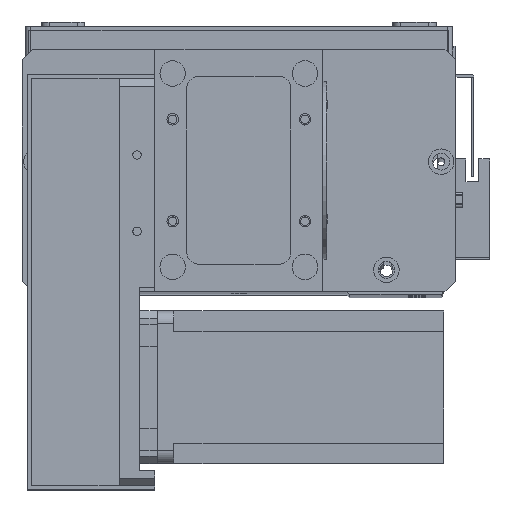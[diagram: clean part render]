
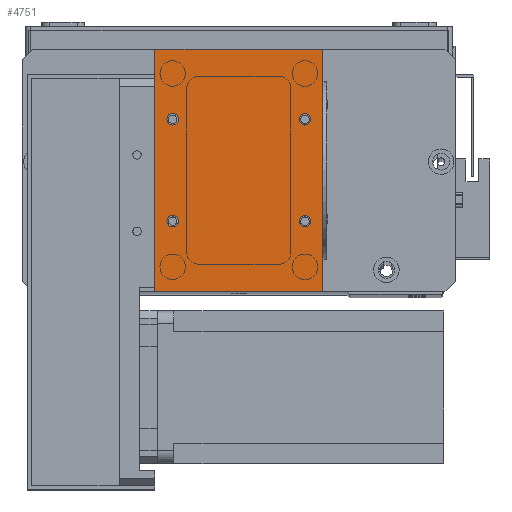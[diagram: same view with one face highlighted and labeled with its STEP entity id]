
A CAD part, top view. The second image highlights one B-rep face of the part: STEP entity #4751.
In plain terms, the highlighted planar face has unit normal (0, 0, 1).
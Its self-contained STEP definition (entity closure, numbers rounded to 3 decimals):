
#208 = DIRECTION ( 'NONE',  ( 1., 0., 0. ) ) ;
#307 = AXIS2_PLACEMENT_3D ( 'NONE', #27571, #25006, #30450 ) ;
#1178 = FACE_OUTER_BOUND ( 'NONE', #15034, .T. ) ;
#1947 = CARTESIAN_POINT ( 'NONE',  ( 0., 0., 2. ) ) ;
#2480 = CIRCLE ( 'NONE', #7157, 2.25 ) ;
#2496 = AXIS2_PLACEMENT_3D ( 'NONE', #18423, #3894, #20866 ) ;
#3235 = LINE ( 'NONE', #24770, #16170 ) ;
#3435 = CARTESIAN_POINT ( 'NONE',  ( 66., 0., 2. ) ) ;
#3616 = CARTESIAN_POINT ( 'NONE',  ( 0., 0., 2. ) ) ;
#3668 = ORIENTED_EDGE ( 'NONE', *, *, #30009, .F. ) ;
#3894 = DIRECTION ( 'NONE',  ( 0., 0., 1. ) ) ;
#4319 = ORIENTED_EDGE ( 'NONE', *, *, #9087, .T. ) ;
#4488 = VECTOR ( 'NONE', #29881, 1000. ) ;
#4751 = ADVANCED_FACE ( 'NONE', ( #20556, #26994, #7603, #14075, #1178 ), #10550, .F. ) ;
#4860 = CARTESIAN_POINT ( 'NONE',  ( 0., 95., 2. ) ) ;
#5053 = VERTEX_POINT ( 'NONE', #9591 ) ;
#5247 = CIRCLE ( 'NONE', #28431, 2.25 ) ;
#6034 = CARTESIAN_POINT ( 'NONE',  ( 7., 27.5, 2. ) ) ;
#6365 = EDGE_LOOP ( 'NONE', ( #25556, #28090 ) ) ;
#6397 = VERTEX_POINT ( 'NONE', #25258 ) ;
#6584 = VERTEX_POINT ( 'NONE', #25360 ) ;
#7157 = AXIS2_PLACEMENT_3D ( 'NONE', #6034, #23034, #8462 ) ;
#7603 = FACE_BOUND ( 'NONE', #12398, .T. ) ;
#7767 = DIRECTION ( 'NONE',  ( -1., 0., 0. ) ) ;
#8462 = DIRECTION ( 'NONE',  ( 1., 0., 0. ) ) ;
#8807 = CARTESIAN_POINT ( 'NONE',  ( 4.75, 27.5, 2. ) ) ;
#8946 = DIRECTION ( 'NONE',  ( 0., 0., 1. ) ) ;
#9087 = EDGE_CURVE ( 'NONE', #13125, #20215, #3235, .T. ) ;
#9422 = ORIENTED_EDGE ( 'NONE', *, *, #21863, .T. ) ;
#9591 = CARTESIAN_POINT ( 'NONE',  ( 56.75, 27.5, 2. ) ) ;
#10213 = DIRECTION ( 'NONE',  ( 0., 0., 1. ) ) ;
#10258 = DIRECTION ( 'NONE',  ( 0., 0., 1. ) ) ;
#10345 = CARTESIAN_POINT ( 'NONE',  ( 7., 67.5, 2. ) ) ;
#10399 = LINE ( 'NONE', #28283, #22580 ) ;
#10550 = PLANE ( 'NONE',  #307 ) ;
#10574 = ORIENTED_EDGE ( 'NONE', *, *, #26641, .F. ) ;
#11349 = CIRCLE ( 'NONE', #19455, 2.25 ) ;
#11885 = CARTESIAN_POINT ( 'NONE',  ( 59., 67.5, 2. ) ) ;
#11947 = CIRCLE ( 'NONE', #2496, 2.25 ) ;
#12398 = EDGE_LOOP ( 'NONE', ( #21739, #19826 ) ) ;
#12780 = DIRECTION ( 'NONE',  ( 1., 0., 0. ) ) ;
#13125 = VERTEX_POINT ( 'NONE', #17111 ) ;
#13147 = EDGE_CURVE ( 'NONE', #24086, #5053, #11349, .T. ) ;
#13217 = ORIENTED_EDGE ( 'NONE', *, *, #28988, .F. ) ;
#13404 = CARTESIAN_POINT ( 'NONE',  ( 61.25, 67.5, 2. ) ) ;
#13937 = EDGE_CURVE ( 'NONE', #5053, #24086, #21249, .T. ) ;
#14075 = FACE_BOUND ( 'NONE', #6365, .T. ) ;
#14107 = VERTEX_POINT ( 'NONE', #3435 ) ;
#14315 = DIRECTION ( 'NONE',  ( 1., 0., 0. ) ) ;
#14720 = DIRECTION ( 'NONE',  ( 0., 0., 1. ) ) ;
#15034 = EDGE_LOOP ( 'NONE', ( #24730, #30885, #9422, #4319 ) ) ;
#16170 = VECTOR ( 'NONE', #7767, 1000. ) ;
#17111 = CARTESIAN_POINT ( 'NONE',  ( 66., 95., 2. ) ) ;
#17503 = CARTESIAN_POINT ( 'NONE',  ( 56.75, 67.5, 2. ) ) ;
#17779 = VECTOR ( 'NONE', #18143, 1000. ) ;
#18043 = EDGE_CURVE ( 'NONE', #23931, #14107, #10399, .T. ) ;
#18143 = DIRECTION ( 'NONE',  ( 0., -1., 0. ) ) ;
#18423 = CARTESIAN_POINT ( 'NONE',  ( 7., 27.5, 2. ) ) ;
#18968 = CIRCLE ( 'NONE', #24741, 2.25 ) ;
#18985 = AXIS2_PLACEMENT_3D ( 'NONE', #23528, #8946, #25942 ) ;
#19034 = CIRCLE ( 'NONE', #23923, 2.25 ) ;
#19174 = CIRCLE ( 'NONE', #18985, 2.25 ) ;
#19455 = AXIS2_PLACEMENT_3D ( 'NONE', #29337, #14720, #208 ) ;
#19826 = ORIENTED_EDGE ( 'NONE', *, *, #13937, .F. ) ;
#20073 = CARTESIAN_POINT ( 'NONE',  ( 4.75, 67.5, 2. ) ) ;
#20215 = VERTEX_POINT ( 'NONE', #4860 ) ;
#20333 = VERTEX_POINT ( 'NONE', #17503 ) ;
#20556 = FACE_BOUND ( 'NONE', #27794, .T. ) ;
#20866 = DIRECTION ( 'NONE',  ( 1., 0., 0. ) ) ;
#21249 = CIRCLE ( 'NONE', #26191, 2.25 ) ;
#21739 = ORIENTED_EDGE ( 'NONE', *, *, #13147, .F. ) ;
#21863 = EDGE_CURVE ( 'NONE', #14107, #13125, #30322, .T. ) ;
#22550 = VERTEX_POINT ( 'NONE', #20073 ) ;
#22580 = VECTOR ( 'NONE', #30713, 1000. ) ;
#23034 = DIRECTION ( 'NONE',  ( 0., 0., 1. ) ) ;
#23528 = CARTESIAN_POINT ( 'NONE',  ( 7., 67.5, 2. ) ) ;
#23923 = AXIS2_PLACEMENT_3D ( 'NONE', #10345, #27360, #12780 ) ;
#23931 = VERTEX_POINT ( 'NONE', #1947 ) ;
#24086 = VERTEX_POINT ( 'NONE', #29230 ) ;
#24145 = ORIENTED_EDGE ( 'NONE', *, *, #30421, .F. ) ;
#24401 = EDGE_CURVE ( 'NONE', #20215, #23931, #28435, .T. ) ;
#24730 = ORIENTED_EDGE ( 'NONE', *, *, #24401, .T. ) ;
#24741 = AXIS2_PLACEMENT_3D ( 'NONE', #11885, #28913, #14315 ) ;
#24770 = CARTESIAN_POINT ( 'NONE',  ( 0., 95., 2. ) ) ;
#24778 = CARTESIAN_POINT ( 'NONE',  ( 59., 27.5, 2. ) ) ;
#24820 = CARTESIAN_POINT ( 'NONE',  ( 59., 67.5, 2. ) ) ;
#25006 = DIRECTION ( 'NONE',  ( 0., 0., -1. ) ) ;
#25258 = CARTESIAN_POINT ( 'NONE',  ( 9.25, 67.5, 2. ) ) ;
#25360 = CARTESIAN_POINT ( 'NONE',  ( 9.25, 27.5, 2. ) ) ;
#25556 = ORIENTED_EDGE ( 'NONE', *, *, #27453, .F. ) ;
#25858 = EDGE_CURVE ( 'NONE', #28044, #6584, #2480, .T. ) ;
#25942 = DIRECTION ( 'NONE',  ( 1., 0., 0. ) ) ;
#26191 = AXIS2_PLACEMENT_3D ( 'NONE', #24778, #10213, #27219 ) ;
#26641 = EDGE_CURVE ( 'NONE', #6397, #22550, #19174, .T. ) ;
#26994 = FACE_BOUND ( 'NONE', #27673, .T. ) ;
#27219 = DIRECTION ( 'NONE',  ( 1., 0., 0. ) ) ;
#27263 = DIRECTION ( 'NONE',  ( 1., 0., 0. ) ) ;
#27360 = DIRECTION ( 'NONE',  ( 0., 0., 1. ) ) ;
#27443 = CARTESIAN_POINT ( 'NONE',  ( 66., 0., 2. ) ) ;
#27453 = EDGE_CURVE ( 'NONE', #6584, #28044, #11947, .T. ) ;
#27571 = CARTESIAN_POINT ( 'NONE',  ( 0., 0., 2. ) ) ;
#27673 = EDGE_LOOP ( 'NONE', ( #3668, #24145 ) ) ;
#27794 = EDGE_LOOP ( 'NONE', ( #10574, #13217 ) ) ;
#28044 = VERTEX_POINT ( 'NONE', #8807 ) ;
#28090 = ORIENTED_EDGE ( 'NONE', *, *, #25858, .F. ) ;
#28283 = CARTESIAN_POINT ( 'NONE',  ( 0., 0., 2. ) ) ;
#28431 = AXIS2_PLACEMENT_3D ( 'NONE', #24820, #10258, #27263 ) ;
#28435 = LINE ( 'NONE', #3616, #17779 ) ;
#28913 = DIRECTION ( 'NONE',  ( 0., 0., 1. ) ) ;
#28988 = EDGE_CURVE ( 'NONE', #22550, #6397, #19034, .T. ) ;
#29230 = CARTESIAN_POINT ( 'NONE',  ( 61.25, 27.5, 2. ) ) ;
#29337 = CARTESIAN_POINT ( 'NONE',  ( 59., 27.5, 2. ) ) ;
#29881 = DIRECTION ( 'NONE',  ( 0., 1., 0. ) ) ;
#30009 = EDGE_CURVE ( 'NONE', #31301, #20333, #18968, .T. ) ;
#30322 = LINE ( 'NONE', #27443, #4488 ) ;
#30421 = EDGE_CURVE ( 'NONE', #20333, #31301, #5247, .T. ) ;
#30450 = DIRECTION ( 'NONE',  ( -1., 0., 0. ) ) ;
#30713 = DIRECTION ( 'NONE',  ( 1., 0., 0. ) ) ;
#30885 = ORIENTED_EDGE ( 'NONE', *, *, #18043, .T. ) ;
#31301 = VERTEX_POINT ( 'NONE', #13404 ) ;
